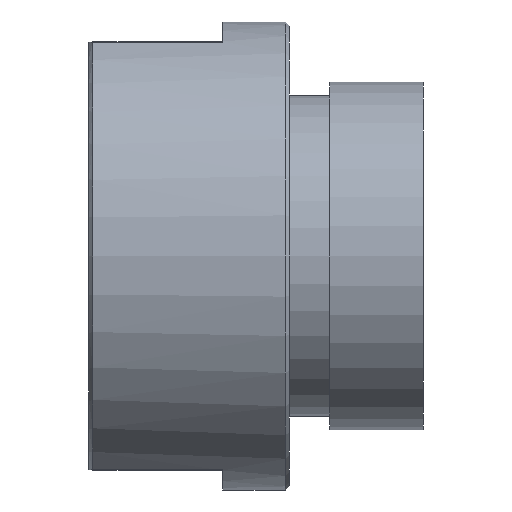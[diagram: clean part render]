
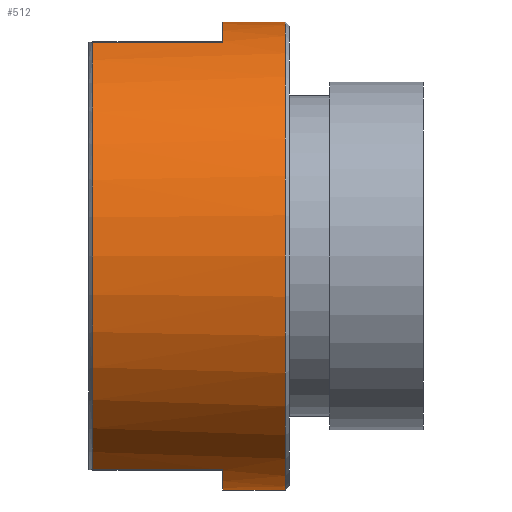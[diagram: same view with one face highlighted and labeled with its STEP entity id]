
A CAD part, left-side view. The second image highlights one B-rep face of the part: STEP entity #512.
In plain terms, the highlighted cylindrical face has radius 17.5 mm (diameter 35 mm), a partial arc.
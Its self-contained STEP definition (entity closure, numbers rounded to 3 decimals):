
#3 = VECTOR ( 'NONE', #821, 1000. ) ;
#5 = CARTESIAN_POINT ( 'NONE',  ( 0., 15., -17.5 ) ) ;
#20 = LINE ( 'NONE', #5, #589 ) ;
#25 = VERTEX_POINT ( 'NONE', #719 ) ;
#29 = EDGE_CURVE ( 'NONE', #87, #811, #648, .T. ) ;
#41 = CARTESIAN_POINT ( 'NONE',  ( 0., 15., 17.5 ) ) ;
#45 = EDGE_CURVE ( 'NONE', #620, #851, #862, .T. ) ;
#47 = DIRECTION ( 'NONE',  ( 0., -1., 0. ) ) ;
#80 = EDGE_CURVE ( 'NONE', #851, #958, #259, .T. ) ;
#87 = VERTEX_POINT ( 'NONE', #741 ) ;
#91 = CARTESIAN_POINT ( 'NONE',  ( 0., 0.3, -17.5 ) ) ;
#125 = CARTESIAN_POINT ( 'NONE',  ( 0., 15., 0. ) ) ;
#129 = DIRECTION ( 'NONE',  ( 0., 1., 0. ) ) ;
#130 = CYLINDRICAL_SURFACE ( 'NONE', #360, 17.5 ) ;
#146 = CARTESIAN_POINT ( 'NONE',  ( 0., 14.7, 0. ) ) ;
#168 = EDGE_CURVE ( 'NONE', #25, #958, #290, .T. ) ;
#205 = CARTESIAN_POINT ( 'NONE',  ( 0., 5., 0. ) ) ;
#215 = ORIENTED_EDGE ( 'NONE', *, *, #29, .T. ) ;
#259 = LINE ( 'NONE', #667, #3 ) ;
#261 = AXIS2_PLACEMENT_3D ( 'NONE', #205, #908, #517 ) ;
#277 = ORIENTED_EDGE ( 'NONE', *, *, #80, .F. ) ;
#290 = CIRCLE ( 'NONE', #882, 17.5 ) ;
#297 = FACE_OUTER_BOUND ( 'NONE', #499, .T. ) ;
#321 = ORIENTED_EDGE ( 'NONE', *, *, #516, .F. ) ;
#353 = VECTOR ( 'NONE', #468, 1000. ) ;
#360 = AXIS2_PLACEMENT_3D ( 'NONE', #125, #47, #812 ) ;
#468 = DIRECTION ( 'NONE',  ( 0., 1., 0. ) ) ;
#475 = DIRECTION ( 'NONE',  ( 0., 0., 1. ) ) ;
#486 = AXIS2_PLACEMENT_3D ( 'NONE', #1009, #706, #926 ) ;
#499 = EDGE_LOOP ( 'NONE', ( #321, #215, #592, #541, #277, #518, #661, #622 ) ) ;
#512 = ADVANCED_FACE ( 'NONE', ( #297 ), #130, .T. ) ;
#516 = EDGE_CURVE ( 'NONE', #87, #528, #543, .T. ) ;
#517 = DIRECTION ( 'NONE',  ( 0., 0., -1. ) ) ;
#518 = ORIENTED_EDGE ( 'NONE', *, *, #45, .F. ) ;
#528 = VERTEX_POINT ( 'NONE', #905 ) ;
#532 = VECTOR ( 'NONE', #902, 1000. ) ;
#541 = ORIENTED_EDGE ( 'NONE', *, *, #168, .T. ) ;
#543 = LINE ( 'NONE', #41, #532 ) ;
#583 = DIRECTION ( 'NONE',  ( -1., 0., 0. ) ) ;
#589 = VECTOR ( 'NONE', #766, 1000. ) ;
#592 = ORIENTED_EDGE ( 'NONE', *, *, #752, .T. ) ;
#620 = VERTEX_POINT ( 'NONE', #690 ) ;
#622 = ORIENTED_EDGE ( 'NONE', *, *, #685, .T. ) ;
#630 = CARTESIAN_POINT ( 'NONE',  ( -7., 14.7, -16.039 ) ) ;
#648 = CIRCLE ( 'NONE', #261, 17.5 ) ;
#661 = ORIENTED_EDGE ( 'NONE', *, *, #806, .T. ) ;
#667 = CARTESIAN_POINT ( 'NONE',  ( -7., 15., -16.039 ) ) ;
#677 = CARTESIAN_POINT ( 'NONE',  ( 0., 5., 0. ) ) ;
#685 = EDGE_CURVE ( 'NONE', #876, #528, #867, .T. ) ;
#690 = CARTESIAN_POINT ( 'NONE',  ( 0., 5., -17.5 ) ) ;
#706 = DIRECTION ( 'NONE',  ( 0., 1., 0. ) ) ;
#714 = CARTESIAN_POINT ( 'NONE',  ( -7., 5., 16.039 ) ) ;
#719 = CARTESIAN_POINT ( 'NONE',  ( -7., 14.7, 16.039 ) ) ;
#741 = CARTESIAN_POINT ( 'NONE',  ( 0., 5., 17.5 ) ) ;
#752 = EDGE_CURVE ( 'NONE', #811, #25, #947, .T. ) ;
#766 = DIRECTION ( 'NONE',  ( 0., -1., 0. ) ) ;
#806 = EDGE_CURVE ( 'NONE', #620, #876, #20, .T. ) ;
#811 = VERTEX_POINT ( 'NONE', #714 ) ;
#812 = DIRECTION ( 'NONE',  ( 0., 0., -1. ) ) ;
#821 = DIRECTION ( 'NONE',  ( 0., 1., 0. ) ) ;
#836 = AXIS2_PLACEMENT_3D ( 'NONE', #677, #129, #583 ) ;
#844 = CARTESIAN_POINT ( 'NONE',  ( -7., 15., 16.039 ) ) ;
#851 = VERTEX_POINT ( 'NONE', #957 ) ;
#862 = CIRCLE ( 'NONE', #836, 17.5 ) ;
#867 = CIRCLE ( 'NONE', #486, 17.5 ) ;
#876 = VERTEX_POINT ( 'NONE', #91 ) ;
#882 = AXIS2_PLACEMENT_3D ( 'NONE', #146, #929, #475 ) ;
#902 = DIRECTION ( 'NONE',  ( 0., -1., 0. ) ) ;
#905 = CARTESIAN_POINT ( 'NONE',  ( 0., 0.3, 17.5 ) ) ;
#908 = DIRECTION ( 'NONE',  ( 0., -1., 0. ) ) ;
#926 = DIRECTION ( 'NONE',  ( 0., 0., 1. ) ) ;
#929 = DIRECTION ( 'NONE',  ( 0., -1., 0. ) ) ;
#947 = LINE ( 'NONE', #844, #353 ) ;
#957 = CARTESIAN_POINT ( 'NONE',  ( -7., 5., -16.039 ) ) ;
#958 = VERTEX_POINT ( 'NONE', #630 ) ;
#1009 = CARTESIAN_POINT ( 'NONE',  ( 0., 0.3, 0. ) ) ;
